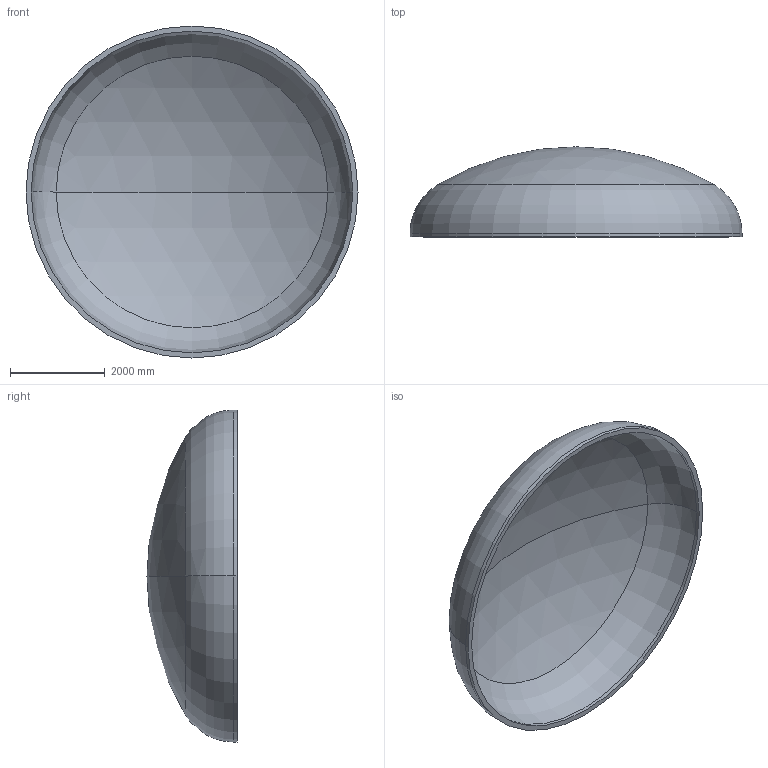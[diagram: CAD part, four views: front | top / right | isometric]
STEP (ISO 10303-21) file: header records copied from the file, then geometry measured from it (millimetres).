
FILE_DESCRIPTION (( 'STEP AP203' ), '1' );
FILE_NAME ('DIN 28013 Korbbogenform_-_Boden DIN 28013 - 7000 x 75 - I - s=108.step', '2016-07-04T10:50:23', ( '' ), ( '' ), 'SwSTEP 2.0', 'SolidWorks 2013', '' );
FILE_SCHEMA (( 'CONFIG_CONTROL_DESIGN' ));
Length unit declared in the file: millimetre
Products named in the file (1): DIN 28013 Korbbogenform_-_Boden DIN 28013 - 7000 x 75 - I - s=108
Bounding box: 7000 x 1899.05 x 7000 mm (x, y, z)
Volume: 5817825210.5 mm3; surface area: 110100292.4 mm2
Topology: 1 solids, 1 shells, 13 faces, 24 edges, 14 vertices
Faces by surface type: torus 4, cylinder 4, sphere 4, plane 1
Entity records: 407 total; most frequent: DIRECTION 72, CARTESIAN_POINT 52, ORIENTED_EDGE 48, AXIS2_PLACEMENT_3D 34, EDGE_CURVE 24, CIRCLE 20, VERTEX_POINT 14, EDGE_LOOP 14
